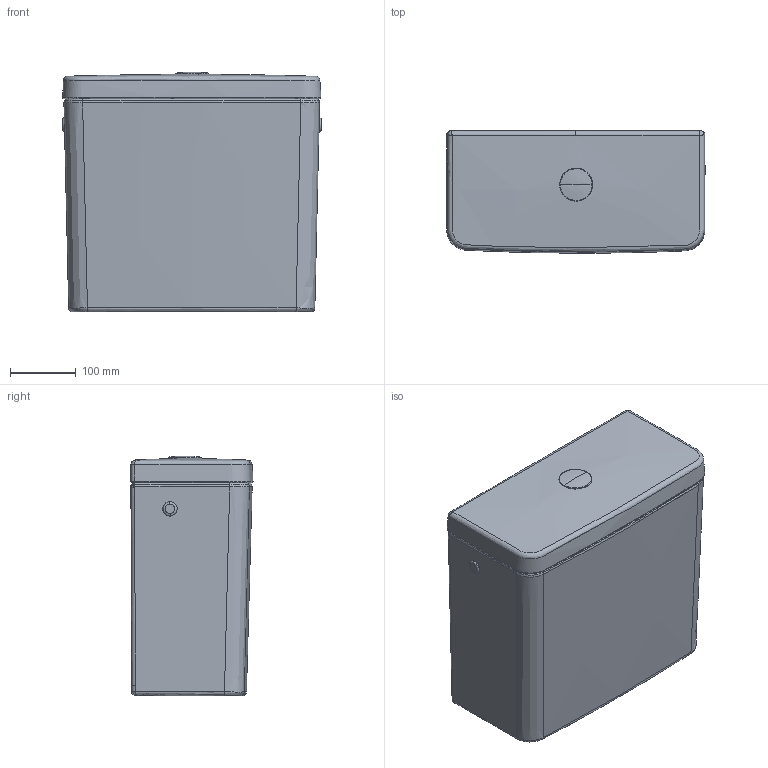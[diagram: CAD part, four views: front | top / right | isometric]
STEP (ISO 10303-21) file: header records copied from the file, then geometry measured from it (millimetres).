
FILE_DESCRIPTION(/* description */ (''),/* implementation_level */ '2;1');
FILE_NAME(/* name */ '094410',/* time_stamp */ '2021-06-21T09:18:05+02:00',/* author */ (''),/* organization */ (''),/* preprocessor_version */ 'ST-DEVELOPER v15',/* originating_system */ '',/* authorisation */ '');
FILE_SCHEMA (('AUTOMOTIVE_DESIGN'));
Length unit declared in the file: millimetre
Products named in the file (1): Document
Bounding box: 394.53 x 186.21 x 365.24 mm (x, y, z)
Volume: 6153497.1 mm3; surface area: 979468.8 mm2
Topology: 5 solids, 5 shells, 170 faces, 409 edges, 245 vertices
Faces by surface type: bspline 128, plane 42
Entity records: 27922 total; most frequent: CARTESIAN_POINT 25405, ORIENTED_EDGE 794, EDGE_CURVE 397, B_SPLINE_CURVE_WITH_KNOTS 301, VERTEX_POINT 245, EDGE_LOOP 188, ADVANCED_FACE 170, FACE_OUTER_BOUND 170
